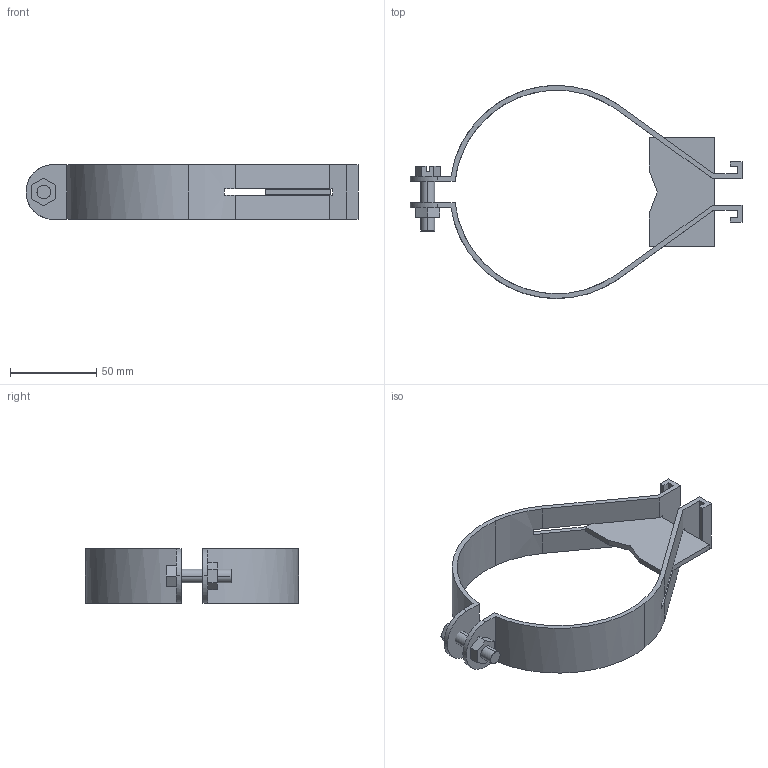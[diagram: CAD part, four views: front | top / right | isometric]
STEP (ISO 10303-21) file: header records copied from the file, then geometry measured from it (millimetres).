
FILE_DESCRIPTION(('TurboCAD Mac Pro'),'Build 980');
FILE_NAME('P1573.stp',' ',(''),(''),'ACIS Interop','IMSI','TurboCAD Mac Pro BY IMSI, INCORPORATED');
FILE_SCHEMA(('automotive_design'));
Length unit declared in the file: inch
Products named in the file (5): 1; 2; 3; 4; 5
Bounding box: 192.64 x 123.66 x 31.74 mm (x, y, z)
Volume: 51553.1 mm3; surface area: 40999.3 mm2
Topology: 5 solids, 5 shells, 88 faces, 243 edges, 162 vertices
Faces by surface type: plane 68, bspline 20
Entity records: 4942 total; most frequent: CARTESIAN_POINT 784, ORIENTED_EDGE 486, DIRECTION 355, STYLED_ITEM 336, PRESENTATION_STYLE_ASSIGNMENT 336, COLOUR_RGB 336, EDGE_CURVE 243, CURVE_STYLE 243
